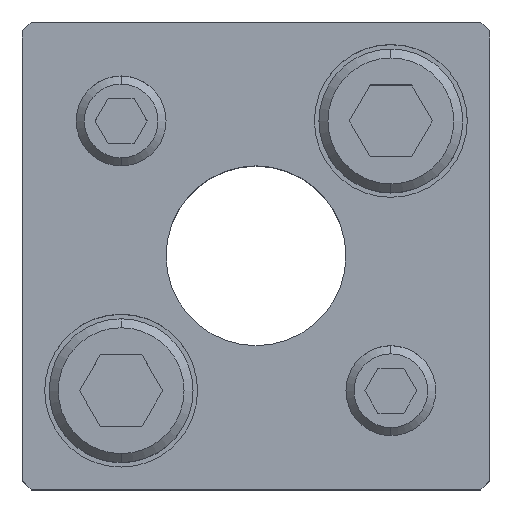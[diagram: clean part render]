
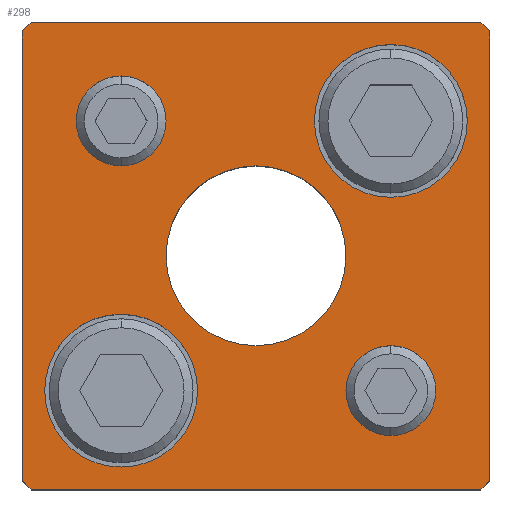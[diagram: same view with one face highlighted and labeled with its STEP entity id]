
A CAD part, top view. The second image highlights one B-rep face of the part: STEP entity #298.
In plain terms, the highlighted planar face has unit normal (0, 0, 1).
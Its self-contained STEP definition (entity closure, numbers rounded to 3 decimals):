
#153=PLANE('',#2436);
#220=FACE_BOUND('',#611,.T.);
#221=FACE_BOUND('',#612,.T.);
#222=FACE_BOUND('',#613,.T.);
#223=FACE_BOUND('',#614,.T.);
#224=FACE_BOUND('',#615,.T.);
#225=FACE_BOUND('',#616,.T.);
#298=ADVANCED_FACE('',(#220,#221,#222,#223,#224,#225),#153,.T.);
#611=EDGE_LOOP('',(#1281,#1282,#1283,#1284,#1285,#1286,#1287,#1288));
#612=EDGE_LOOP('',(#1289,#1290));
#613=EDGE_LOOP('',(#1291,#1292));
#614=EDGE_LOOP('',(#1293,#1294));
#615=EDGE_LOOP('',(#1295,#1296));
#616=EDGE_LOOP('',(#1297,#1298));
#759=LINE('',#3542,#941);
#760=LINE('',#3545,#942);
#761=LINE('',#3547,#943);
#762=LINE('',#3549,#944);
#763=LINE('',#3551,#945);
#764=LINE('',#3553,#946);
#765=LINE('',#3555,#947);
#766=LINE('',#3557,#948);
#941=VECTOR('',#2839,1.);
#942=VECTOR('',#2840,1.);
#943=VECTOR('',#2841,1.);
#944=VECTOR('',#2842,1.);
#945=VECTOR('',#2843,1.);
#946=VECTOR('',#2844,1.);
#947=VECTOR('',#2845,1.);
#948=VECTOR('',#2846,1.);
#1281=ORIENTED_EDGE('',*,*,#2001,.T.);
#1282=ORIENTED_EDGE('',*,*,#2002,.T.);
#1283=ORIENTED_EDGE('',*,*,#2003,.T.);
#1284=ORIENTED_EDGE('',*,*,#2004,.T.);
#1285=ORIENTED_EDGE('',*,*,#2005,.T.);
#1286=ORIENTED_EDGE('',*,*,#2006,.T.);
#1287=ORIENTED_EDGE('',*,*,#2007,.T.);
#1288=ORIENTED_EDGE('',*,*,#2008,.T.);
#1289=ORIENTED_EDGE('',*,*,#2009,.F.);
#1290=ORIENTED_EDGE('',*,*,#2010,.F.);
#1291=ORIENTED_EDGE('',*,*,#2011,.F.);
#1292=ORIENTED_EDGE('',*,*,#2012,.F.);
#1293=ORIENTED_EDGE('',*,*,#1987,.F.);
#1294=ORIENTED_EDGE('',*,*,#1983,.F.);
#1295=ORIENTED_EDGE('',*,*,#1981,.F.);
#1296=ORIENTED_EDGE('',*,*,#1977,.F.);
#1297=ORIENTED_EDGE('',*,*,#2013,.T.);
#1298=ORIENTED_EDGE('',*,*,#2014,.T.);
#1751=VERTEX_POINT('',#3493);
#1752=VERTEX_POINT('',#3494);
#1755=VERTEX_POINT('',#3506);
#1756=VERTEX_POINT('',#3507);
#1767=VERTEX_POINT('',#3543);
#1768=VERTEX_POINT('',#3544);
#1769=VERTEX_POINT('',#3546);
#1770=VERTEX_POINT('',#3548);
#1771=VERTEX_POINT('',#3550);
#1772=VERTEX_POINT('',#3552);
#1773=VERTEX_POINT('',#3554);
#1774=VERTEX_POINT('',#3556);
#1775=VERTEX_POINT('',#3559);
#1776=VERTEX_POINT('',#3560);
#1777=VERTEX_POINT('',#3563);
#1778=VERTEX_POINT('',#3564);
#1779=VERTEX_POINT('',#3567);
#1780=VERTEX_POINT('',#3568);
#1977=EDGE_CURVE('',#1751,#1752,#2247,.T.);
#1981=EDGE_CURVE('',#1752,#1751,#2249,.T.);
#1983=EDGE_CURVE('',#1755,#1756,#2251,.T.);
#1987=EDGE_CURVE('',#1756,#1755,#2253,.T.);
#2001=EDGE_CURVE('',#1767,#1768,#759,.T.);
#2002=EDGE_CURVE('',#1768,#1769,#760,.T.);
#2003=EDGE_CURVE('',#1769,#1770,#761,.T.);
#2004=EDGE_CURVE('',#1770,#1771,#762,.T.);
#2005=EDGE_CURVE('',#1771,#1772,#763,.T.);
#2006=EDGE_CURVE('',#1772,#1773,#764,.T.);
#2007=EDGE_CURVE('',#1773,#1774,#765,.T.);
#2008=EDGE_CURVE('',#1774,#1767,#766,.T.);
#2009=EDGE_CURVE('',#1775,#1776,#2263,.T.);
#2010=EDGE_CURVE('',#1776,#1775,#2264,.T.);
#2011=EDGE_CURVE('',#1777,#1778,#2265,.T.);
#2012=EDGE_CURVE('',#1778,#1777,#2266,.T.);
#2013=EDGE_CURVE('',#1779,#1780,#2267,.T.);
#2014=EDGE_CURVE('',#1780,#1779,#2268,.T.);
#2247=CIRCLE('',#2404,5.);
#2249=CIRCLE('',#2407,5.);
#2251=CIRCLE('',#2411,5.);
#2253=CIRCLE('',#2414,5.);
#2263=CIRCLE('',#2430,8.5);
#2264=CIRCLE('',#2431,8.5);
#2265=CIRCLE('',#2432,8.5);
#2266=CIRCLE('',#2433,8.5);
#2267=CIRCLE('',#2434,10.);
#2268=CIRCLE('',#2435,10.);
#2404=AXIS2_PLACEMENT_3D('',#3492,#2779,#2780);
#2407=AXIS2_PLACEMENT_3D('',#3501,#2787,#2788);
#2411=AXIS2_PLACEMENT_3D('',#3505,#2795,#2796);
#2414=AXIS2_PLACEMENT_3D('',#3514,#2803,#2804);
#2430=AXIS2_PLACEMENT_3D('',#3558,#2847,#2848);
#2431=AXIS2_PLACEMENT_3D('',#3561,#2849,#2850);
#2432=AXIS2_PLACEMENT_3D('',#3562,#2851,#2852);
#2433=AXIS2_PLACEMENT_3D('',#3565,#2853,#2854);
#2434=AXIS2_PLACEMENT_3D('',#3566,#2855,#2856);
#2435=AXIS2_PLACEMENT_3D('',#3569,#2857,#2858);
#2436=AXIS2_PLACEMENT_3D('',#3570,#2859,#2860);
#2779=DIRECTION('',(0.,0.,1.));
#2780=DIRECTION('',(-1.,0.,0.));
#2787=DIRECTION('',(0.,0.,1.));
#2788=DIRECTION('',(1.,0.,0.));
#2795=DIRECTION('',(0.,0.,1.));
#2796=DIRECTION('',(-1.,0.,0.));
#2803=DIRECTION('',(0.,0.,1.));
#2804=DIRECTION('',(1.,0.,0.));
#2839=DIRECTION('',(0.707,0.707,0.));
#2840=DIRECTION('',(0.,1.,0.));
#2841=DIRECTION('',(-0.707,0.707,0.));
#2842=DIRECTION('',(-1.,0.,0.));
#2843=DIRECTION('',(-0.707,-0.707,0.));
#2844=DIRECTION('',(0.,-1.,0.));
#2845=DIRECTION('',(0.707,-0.707,0.));
#2846=DIRECTION('',(1.,0.,0.));
#2847=DIRECTION('',(0.,0.,1.));
#2848=DIRECTION('',(1.,0.,0.));
#2849=DIRECTION('',(0.,0.,1.));
#2850=DIRECTION('',(-1.,0.,0.));
#2851=DIRECTION('',(0.,0.,1.));
#2852=DIRECTION('',(1.,0.,0.));
#2853=DIRECTION('',(0.,0.,1.));
#2854=DIRECTION('',(-1.,0.,0.));
#2855=DIRECTION('',(0.,0.,-1.));
#2856=DIRECTION('',(-1.,0.,0.));
#2857=DIRECTION('',(0.,0.,-1.));
#2858=DIRECTION('',(1.,0.,0.));
#2859=DIRECTION('',(0.,0.,1.));
#2860=DIRECTION('',(-1.,0.,0.));
#3492=CARTESIAN_POINT('',(15.,-15.,30.));
#3493=CARTESIAN_POINT('',(15.,-20.,30.));
#3494=CARTESIAN_POINT('',(15.,-10.,30.));
#3501=CARTESIAN_POINT('',(15.,-15.,30.));
#3505=CARTESIAN_POINT('',(-15.,15.,30.));
#3506=CARTESIAN_POINT('',(-15.,10.,30.));
#3507=CARTESIAN_POINT('',(-15.,20.,30.));
#3514=CARTESIAN_POINT('',(-15.,15.,30.));
#3542=CARTESIAN_POINT('',(25.,-26.,30.));
#3543=CARTESIAN_POINT('',(25.,-26.,30.));
#3544=CARTESIAN_POINT('',(26.,-25.,30.));
#3545=CARTESIAN_POINT('',(26.,25.,30.));
#3546=CARTESIAN_POINT('',(26.,25.,30.));
#3547=CARTESIAN_POINT('',(26.,25.,30.));
#3548=CARTESIAN_POINT('',(25.,26.,30.));
#3549=CARTESIAN_POINT('',(-25.,26.,30.));
#3550=CARTESIAN_POINT('',(-25.,26.,30.));
#3551=CARTESIAN_POINT('',(-25.,26.,30.));
#3552=CARTESIAN_POINT('',(-26.,25.,30.));
#3553=CARTESIAN_POINT('',(-26.,25.,30.));
#3554=CARTESIAN_POINT('',(-26.,-25.,30.));
#3555=CARTESIAN_POINT('',(-26.,-25.,30.));
#3556=CARTESIAN_POINT('',(-25.,-26.,30.));
#3557=CARTESIAN_POINT('',(-25.,-26.,30.));
#3558=CARTESIAN_POINT('',(15.,15.,30.));
#3559=CARTESIAN_POINT('',(15.,23.5,30.));
#3560=CARTESIAN_POINT('',(15.,6.5,30.));
#3561=CARTESIAN_POINT('',(15.,15.,30.));
#3562=CARTESIAN_POINT('',(-15.,-15.,30.));
#3563=CARTESIAN_POINT('',(-15.,-6.5,30.));
#3564=CARTESIAN_POINT('',(-15.,-23.5,30.));
#3565=CARTESIAN_POINT('',(-15.,-15.,30.));
#3566=CARTESIAN_POINT('',(0.,0.,30.));
#3567=CARTESIAN_POINT('',(0.,10.,30.));
#3568=CARTESIAN_POINT('',(0.,-10.,30.));
#3569=CARTESIAN_POINT('',(0.,0.,30.));
#3570=CARTESIAN_POINT('',(25.,-26.,30.));
